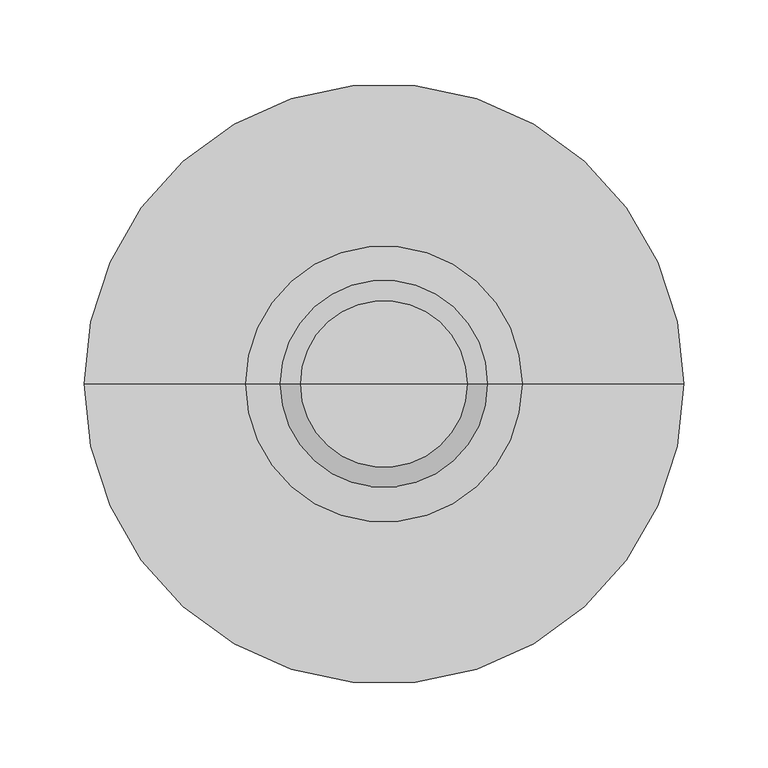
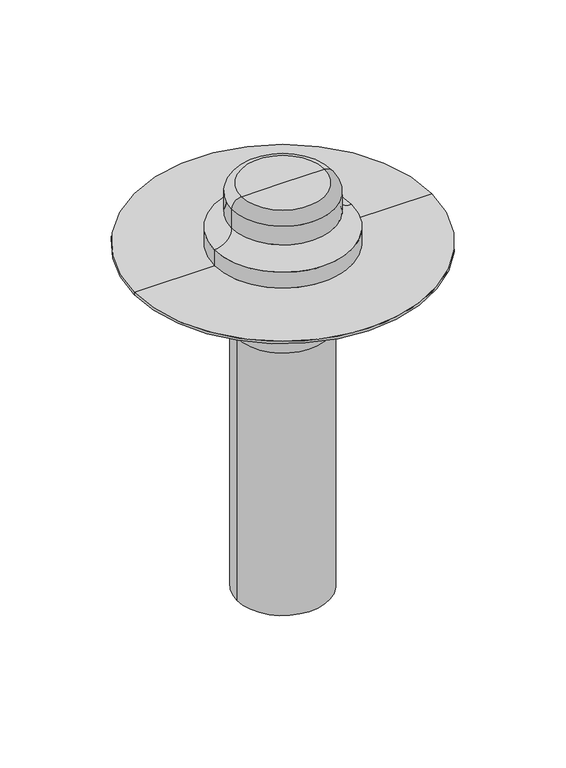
"""IFC4 building model written with IfcOpenShell, lengths in millimetres: flow terminal geometry, BIMLIB_Воронка_Кровельная_Fachmann_VM : 110х450."""

import ifcopenshell
import ifcopenshell.guid

model = None  # the IFC model being written
_history = None  # IfcOwnerHistory: only IFC2X3 demands one
_inside = {}  # id of a spatial element -> (the spatial element, [elements in it])
_under = {}  # id of a project, library or spatial element -> (it, [spatial elements below it])
_declared = {}  # id of a project -> (the project, [libraries it declares])
_typed = {}  # id of a type object -> (the type object, [elements of that type])
_made_of = {}  # id of a material, layer set ... -> (it, [elements and type objects made of it])


def new_model(schema):
    """Start an empty IFC model of exactly this schema.

    Asked for "IFC4X3", IfcOpenShell would pick the latest addendum, in which some entities
    have other attributes; the version numbers below select the first issue.
    IFC2X3 requires an IfcOwnerHistory on every rooted entity: one is made here for all.
    """
    global model, _history
    if schema == "IFC4X3":
        model = ifcopenshell.file(schema_version=(4, 3, 0, 0))
    else:
        model = ifcopenshell.file(schema=schema)
    _inside.clear()
    _under.clear()
    _declared.clear()
    _typed.clear()
    _made_of.clear()
    _history = None
    if model.schema == "IFC2X3":
        org = make("IfcOrganization", Name="unknown")
        user = make(
            "IfcPersonAndOrganization",
            ThePerson=make("IfcPerson", FamilyName="unknown"),
            TheOrganization=org,
        )
        app = make(
            "IfcApplication",
            ApplicationDeveloper=org,
            Version="unknown",
            ApplicationFullName="unknown",
            ApplicationIdentifier="unknown",
        )
        _history = make(
            "IfcOwnerHistory",
            OwningUser=user,
            OwningApplication=app,
            ChangeAction="ADDED",
            CreationDate=0,
        )
    return model


def make(cls, **values):
    """One entity of the class cls with the attributes given. An attribute that is None is left unset."""
    return model.create_entity(
        cls, **{name: value for name, value in values.items() if value is not None}
    )


def rooted(cls, **values):
    """An entity with a GlobalId (a new one), such as an element, a storey or a relation."""
    return make(cls, GlobalId=ifcopenshell.guid.new(), OwnerHistory=_history, **values)


def si_unit(unit_type, name, prefix=None):
    """IfcSIUnit, for example si_unit("LENGTHUNIT", "METRE", prefix="MILLI")."""
    return make("IfcSIUnit", UnitType=unit_type, Prefix=prefix, Name=name)


def assignment(units):
    """IfcUnitAssignment: the units of a project."""
    return None if units is None else make("IfcUnitAssignment", Units=units)


def point(xyz):
    """IfcCartesianPoint."""
    return None if xyz is None else make("IfcCartesianPoint", Coordinates=xyz)


def direction(xyz):
    """IfcDirection."""
    return None if xyz is None else make("IfcDirection", DirectionRatios=xyz)


def frame(location, z_axis=None, x_axis=None):
    """IfcAxis2Placement3D, a coordinate frame: its origin and axes. An axis left out is left unset."""
    return make(
        "IfcAxis2Placement3D",
        Location=point(location),
        Axis=direction(z_axis),
        RefDirection=direction(x_axis),
    )


def origin():
    """The frame at (0, 0, 0) with its axes left unset."""
    return frame((0.0, 0.0, 0.0))


def origin_with_axes():
    """The frame at (0, 0, 0) with the z axis (0, 0, 1) and the x axis (1, 0, 0) written out."""
    return frame((0.0, 0.0, 0.0), z_axis=(0.0, 0.0, 1.0), x_axis=(1.0, 0.0, 0.0))


def place(relative_to, where):
    """IfcLocalPlacement: puts the frame where relative to a parent placement (None: the world)."""
    return make(
        "IfcLocalPlacement", PlacementRelTo=relative_to, RelativePlacement=where
    )


def context(
    kind, dimensions, precision=None, world=None, true_north=None, identifier=None
):
    """IfcGeometricRepresentationContext, for example the 3D "Model" context."""
    return make(
        "IfcGeometricRepresentationContext",
        ContextIdentifier=identifier,
        ContextType=kind,
        CoordinateSpaceDimension=dimensions,
        Precision=precision,
        WorldCoordinateSystem=world,
        TrueNorth=true_north,
    )


def project(units=None, contexts=None):
    """IfcProject with its units and contexts."""
    return rooted(
        "IfcProject",
        Name="project",
        RepresentationContexts=contexts,
        UnitsInContext=assignment(units),
    )


def spatial(cls, under=None, at=None, **own):
    """A site, building, storey or space (cls), placed at a placement, below another one or the project."""
    s = rooted(cls, ObjectPlacement=at, **own)
    if under is not None:
        _under.setdefault(under.id(), (under, []))[1].append(s)
    return s


def polyline(points):
    """IfcPolyline through the points."""
    return make("IfcPolyline", Points=[point(p) for p in points])


def circle_curve(where, radius):
    """IfcCircle in the frame where."""
    return make("IfcCircle", Position=where, Radius=radius)


def ellipse_curve(where, semi_axis1, semi_axis2):
    """IfcEllipse in the frame where."""
    return make(
        "IfcEllipse", Position=where, SemiAxis1=semi_axis1, SemiAxis2=semi_axis2
    )


def trimmed(basis, trim1, trim2, sense, master):
    """IfcTrimmedCurve: the piece of a basis curve between two trims."""
    return make(
        "IfcTrimmedCurve",
        BasisCurve=basis,
        Trim1=trim1,
        Trim2=trim2,
        SenseAgreement=sense,
        MasterRepresentation=master,
    )


def shape(context_of_items, identifier, shape_type, items):
    """IfcShapeRepresentation: the items that make up one representation, for example the "Body"."""
    return make(
        "IfcShapeRepresentation",
        ContextOfItems=context_of_items,
        RepresentationIdentifier=identifier,
        RepresentationType=shape_type,
        Items=items,
    )


def source(mapping_origin, context_of_items, identifier, shape_type, items):
    """IfcRepresentationMap: a shape defined once, which mapped items show again and again."""
    return make(
        "IfcRepresentationMap",
        MappingOrigin=mapping_origin,
        MappedRepresentation=shape(context_of_items, identifier, shape_type, items),
    )


def transform(
    local_origin,
    x_axis=None,
    y_axis=None,
    z_axis=None,
    scale=None,
    scale2=None,
    scale3=None,
    uniform=True,
):
    """IfcCartesianTransformationOperator3D, or its non-uniform kind. x_axis, y_axis, z_axis: its Axis1, 2, 3."""
    if uniform:
        return make(
            "IfcCartesianTransformationOperator3D",
            Axis1=direction(x_axis),
            Axis2=direction(y_axis),
            LocalOrigin=point(local_origin),
            Scale=scale,
            Axis3=direction(z_axis),
        )
    return make(
        "IfcCartesianTransformationOperator3DnonUniform",
        Axis1=direction(x_axis),
        Axis2=direction(y_axis),
        LocalOrigin=point(local_origin),
        Scale=scale,
        Axis3=direction(z_axis),
        Scale2=scale2,
        Scale3=scale3,
    )


def mapped(mapping_source, mapping_target):
    """IfcMappedItem: shows the shape of a source again, moved by a transform."""
    return make(
        "IfcMappedItem", MappingSource=mapping_source, MappingTarget=mapping_target
    )


def made_of(thing, what):
    """Note that an element or type object is made of a material, layer set ...; save() writes the relation."""
    if what is not None:
        _made_of.setdefault(what.id(), (what, []))[1].append(thing)
    return thing


def element(
    cls,
    number,
    at=None,
    inside=None,
    cuts=None,
    type_object=None,
    material=None,
    context=None,
    identifier="Body",
    shape_type=None,
    held_by="IfcProductDefinitionShape",
    body=None,
    shapes=None,
    **own,
):
    """One element of the class cls, such as IfcWall. Its Tag is "e" and its number.

    at: its placement. inside: the storey or other place that contains it. cuts: it is an
    opening in that element (IfcRelVoidsElement). A single representation is given by context,
    identifier, shape_type and body (its items); several are given by shapes. held_by: the class
    of the entity that holds the representations. save() writes the other relations.
    """
    e = rooted(cls, Tag="e%d" % number, ObjectPlacement=at, **own)
    if body is not None:
        shapes = [shape(context, identifier, shape_type, body)]
    if shapes is not None:
        e.Representation = make(held_by, Representations=shapes)
    if inside is not None:
        _inside.setdefault(inside.id(), (inside, []))[1].append(e)
    if cuts is not None:
        rooted(
            "IfcRelVoidsElement", RelatingBuildingElement=cuts, RelatedOpeningElement=e
        )
    if type_object is not None:
        _typed.setdefault(type_object.id(), (type_object, []))[1].append(e)
    return made_of(e, material)


def aggregate(whole, parts):
    """IfcRelAggregates: a whole, such as a stair, and the parts it consists of."""
    return rooted("IfcRelAggregates", RelatingObject=whole, RelatedObjects=parts)


def save(model, path):
    """Write the relations noted so far, then the file.

    IfcRelAggregates (storeys below a building ...), IfcRelContainedInSpatialStructure (elements
    in a storey), IfcRelDefinesByType, IfcRelAssociatesMaterial and IfcRelDeclares: one each for
    every whole, place, type object, material and project.
    """
    for whole, parts in _under.values():
        aggregate(whole, parts)
    for where, things in _inside.values():
        rooted(
            "IfcRelContainedInSpatialStructure",
            RelatedElements=things,
            RelatingStructure=where,
        )
    for kind, things in _typed.values():
        rooted("IfcRelDefinesByType", RelatedObjects=things, RelatingType=kind)
    for what, things in _made_of.values():
        rooted("IfcRelAssociatesMaterial", RelatedObjects=things, RelatingMaterial=what)
    for by, libraries in _declared.values():
        rooted("IfcRelDeclares", RelatingContext=by, RelatedDefinitions=libraries)
    model.write(path)


def plane_surface(at):
    """IfcPlane: the flat surface through the origin of the frame at, square to its z axis."""
    return make("IfcPlane", Position=at)


def cylinder_surface(at, radius):
    """IfcCylindricalSurface: all points at the distance radius from the z axis of the frame at."""
    return make("IfcCylindricalSurface", Position=at, Radius=radius)


def revolved_surface(curve, axis_point, axis_direction):
    """IfcSurfaceOfRevolution: the curve turned about the line through axis_point along axis_direction."""
    return make(
        "IfcSurfaceOfRevolution",
        SweptCurve=make("IfcArbitraryOpenProfileDef", ProfileType="CURVE", Curve=curve),
        AxisPosition=make("IfcAxis1Placement", Location=point(axis_point), Axis=direction(axis_direction)),
    )


def advanced_brep(points, edges, surfaces, faces):
    """IfcAdvancedBrep: a solid bounded by faces that lie on surfaces and meet in shared edges.

    An edge is (start, end): straight between two places in points (the first is 0);
    or (start, end, curve); or (start, end, curve, False) where it runs against its curve.
    A face is (place in surfaces, loops), or (place, loops, False) where it looks against
    its surface's normal. A loop lists edges by number (the first is 1), with a minus sign
    where the edge is run from its end to its start. The first loop is the outer one.
    """
    corners = [point(p) for p in points]
    vertices = [make("IfcVertexPoint", VertexGeometry=c) for c in corners]
    made = []
    for start, end, *more in edges:
        made.append(
            make(
                "IfcEdgeCurve",
                EdgeStart=vertices[start],
                EdgeEnd=vertices[end],
                EdgeGeometry=more[0] if more else make("IfcPolyline", Points=[corners[start], corners[end]]),
                SameSense=more[1] if len(more) > 1 else True,
            )
        )
    hull = []
    for where, loops, *sense in faces:
        bounds = []
        for j, loop in enumerate(loops):
            ring = [make("IfcOrientedEdge", EdgeElement=made[abs(k) - 1], Orientation=k > 0) for k in loop]
            bounds.append(
                make(
                    "IfcFaceOuterBound" if j == 0 else "IfcFaceBound",
                    Bound=make("IfcEdgeLoop", EdgeList=ring),
                    Orientation=True,
                )
            )
        hull.append(make("IfcAdvancedFace", Bounds=bounds, FaceSurface=surfaces[where], SameSense=sense[0] if sense else True))
    return make("IfcAdvancedBrep", Outer=make("IfcClosedShell", CfsFaces=hull))


def flow_terminal_a2c307c8(model_context):
    return source(origin(), model_context, "Body", "AdvancedBrep", [
        advanced_brep(
        [(55.0, 0.0, -430.0), (-55.0, 0.0, -430.0), (-55.0, 0.0, -98.0), (55.0, 0.0, -98.0), (-113.0, 0.0, -9.0), (113.0, 0.0, -9.0), (113.0, 0.0, -32.0), (-113.0, 0.0, -32.0), (0.0, 0.0, 0.0), (138.0, 0.0, 0.0), (-138.0, 0.0, 0.0), (-90.0, 0.0, -32.0), (90.0, 0.0, -32.0), (90.0, 0.0, -40.0), (-90.0, 0.0, -40.0)],
        [
            (0, 1, circle_curve(frame((0.0, 0.0, -430.0), z_axis=(0.0, 0.0, -1.0), x_axis=(-1.0, 0.0, 0.0)), 55.0)),
            (1, 0, circle_curve(frame((0.0, 0.0, -430.0), z_axis=(0.0, 0.0, -1.0), x_axis=(-1.0, 0.0, 0.0)), 55.0)),
            (1, 2),
            (2, 3, circle_curve(frame((0.0, 0.0, -98.0), z_axis=(0.0, 0.0, -1.0), x_axis=(-1.0, 0.0, 0.0)), 55.0)),
            (3, 0),
            (3, 2, circle_curve(frame((0.0, 0.0, -98.0), z_axis=(0.0, 0.0, -1.0), x_axis=(-1.0, 0.0, 0.0)), 55.0)),
            (4, 5, circle_curve(frame((0.0, 0.0, -9.0), z_axis=(0.0, 0.0, -1.0), x_axis=(1.0, 0.0, 0.0)), 113.0)),
            (5, 6),
            (6, 7, circle_curve(frame((0.0, 0.0, -32.0), z_axis=(0.0, 0.0, 1.0), x_axis=(1.0, 0.0, 0.0)), 113.0)),
            (7, 4),
            (5, 4, circle_curve(frame((0.0, 0.0, -9.0), z_axis=(0.0, 0.0, -1.0), x_axis=(1.0, 0.0, 0.0)), 113.0)),
            (7, 6, circle_curve(frame((0.0, 0.0, -32.0), z_axis=(0.0, 0.0, 1.0), x_axis=(1.0, 0.0, 0.0)), 113.0)),
            (8, 9),
            (9, 10, circle_curve(origin_with_axes(), 138.0)),
            (10, 8),
            (10, 9, circle_curve(origin_with_axes(), 138.0)),
            (4, 10),
            (9, 5),
            (11, 12, circle_curve(frame((0.0, 0.0, -32.0), z_axis=(0.0, 0.0, -1.0), x_axis=(1.0, 0.0, 0.0)), 90.0)),
            (12, 13),
            (13, 14, circle_curve(frame((0.0, 0.0, -40.0), z_axis=(0.0, 0.0, 1.0), x_axis=(1.0, 0.0, 0.0)), 90.0)),
            (14, 11),
            (12, 11, circle_curve(frame((0.0, 0.0, -32.0), z_axis=(0.0, 0.0, -1.0), x_axis=(1.0, 0.0, 0.0)), 90.0)),
            (14, 13, circle_curve(frame((0.0, 0.0, -40.0), z_axis=(0.0, 0.0, 1.0), x_axis=(1.0, 0.0, 0.0)), 90.0)),
            (6, 12),
            (11, 7),
            (13, 3),
            (2, 14),
        ],
        [
            plane_surface(frame((-55.0, 0.0, -430.0), z_axis=(0.0, 0.0, -1.0), x_axis=(0.0, 1.0, 0.0))),
            cylinder_surface(frame((0.0, 0.0, -430.0), z_axis=(0.0, 0.0, 1.0), x_axis=(-1.0, 0.0, 0.0)), 55.0),
            cylinder_surface(frame((0.0, 0.0, 159.0), z_axis=(0.0, 0.0, 1.0), x_axis=(1.0, 0.0, 0.0)), 113.0),
            plane_surface(origin_with_axes()),
            revolved_surface(polyline([(113.0, 0.0, -9.0), (138.0, 0.0, 0.0)]), (0.0, 0.0, 159.0), (0.0, 0.0, 1.0)),
            cylinder_surface(frame((0.0, 0.0, 159.0), z_axis=(0.0, 0.0, 1.0), x_axis=(1.0, 0.0, 0.0)), 90.0),
            plane_surface(frame((0.0, 0.0, -32.0), z_axis=(0.0, 0.0, -1.0), x_axis=(1.0, 0.0, 0.0))),
            revolved_surface(polyline([(55.0, 0.0, -98.0), (90.0, 0.0, -40.0)]), (0.0, 0.0, 159.0), (0.0, 0.0, 1.0)),
        ],
        [
            (0, [[1, 2]]),
            (1, [[-2, 3, 4, 5]]),
            (1, [[-1, -5, 6, -3]]),
            (2, [[7, 8, 9, 10]]),
            (2, [[-8, 11, -10, 12]]),
            (3, [[13, 14, 15]]),
            (3, [[-13, -15, 16]]),
            (4, [[-7, 17, -14, 18]]),
            (4, [[-11, -18, -16, -17]]),
            (5, [[19, 20, 21, 22]]),
            (5, [[-20, 23, -22, 24]]),
            (6, [[-9, 25, -19, 26]]),
            (6, [[-12, -26, -23, -25]]),
            (7, [[-21, 27, -4, 28]]),
            (7, [[-24, -28, -6, -27]]),
        ],
    ),
        advanced_brep(
        [(0.0, 0.0, 79.0), (49.5, 0.0, 79.0), (-49.5, 0.0, 79.0), (-178.0, 0.0, 0.0), (178.0, 0.0, 0.0), (0.0, 0.0, 0.0), (-178.0, 0.0, 3.0), (178.0, 0.0, 3.0), (-82.0, 0.0, 3.0), (82.0, 0.0, 3.0), (-61.5, 0.0, 67.0), (61.5, 0.0, 67.0), (61.5, 0.0, 43.5), (-61.5, 0.0, 43.5), (-82.0, 0.0, 23.0), (82.0, 0.0, 23.0)],
        [
            (0, 1),
            (1, 2, circle_curve(frame((0.0, 0.0, 79.0), z_axis=(0.0, 0.0, 1.0), x_axis=(1.0, 0.0, 0.0)), 49.5)),
            (2, 0),
            (2, 1, circle_curve(frame((0.0, 0.0, 79.0), z_axis=(0.0, 0.0, 1.0), x_axis=(1.0, 0.0, 0.0)), 49.5)),
            (3, 4, circle_curve(frame((0.0, 0.0, 0.0), z_axis=(0.0, 0.0, -1.0), x_axis=(1.0, 0.0, 0.0)), 178.0)),
            (4, 5),
            (5, 3),
            (4, 3, circle_curve(frame((0.0, 0.0, 0.0), z_axis=(0.0, 0.0, -1.0), x_axis=(1.0, 0.0, 0.0)), 178.0)),
            (6, 7, circle_curve(frame((0.0, 0.0, 3.0), z_axis=(0.0, 0.0, -1.0), x_axis=(1.0, 0.0, 0.0)), 178.0)),
            (7, 4),
            (3, 6),
            (7, 6, circle_curve(frame((0.0, 0.0, 3.0), z_axis=(0.0, 0.0, -1.0), x_axis=(1.0, 0.0, 0.0)), 178.0)),
            (8, 9, circle_curve(frame((0.0, 0.0, 3.0), z_axis=(0.0, 0.0, -1.0), x_axis=(1.0, 0.0, 0.0)), 82.0)),
            (9, 7),
            (6, 8),
            (9, 8, circle_curve(frame((0.0, 0.0, 3.0), z_axis=(0.0, 0.0, -1.0), x_axis=(1.0, 0.0, 0.0)), 82.0)),
            (10, 11, circle_curve(frame((0.0, 0.0, 67.0), z_axis=(0.0, 0.0, -1.0), x_axis=(1.0, 0.0, 0.0)), 61.5)),
            (11, 12),
            (12, 13, circle_curve(frame((0.0, 0.0, 43.5), z_axis=(0.0, 0.0, 1.0), x_axis=(1.0, 0.0, 0.0)), 61.5)),
            (13, 10),
            (11, 10, circle_curve(frame((0.0, 0.0, 67.0), z_axis=(0.0, 0.0, -1.0), x_axis=(1.0, 0.0, 0.0)), 61.5)),
            (13, 12, circle_curve(frame((0.0, 0.0, 43.5), z_axis=(0.0, 0.0, 1.0), x_axis=(1.0, 0.0, 0.0)), 61.5)),
            (1, 11, circle_curve(frame((49.5, 0.0, 67.0), z_axis=(0.0, 1.0, 0.0), x_axis=(1.0, 0.0, 0.0)), 12.0)),
            (10, 2, circle_curve(frame((-49.5, 0.0, 67.0), z_axis=(0.0, 1.0, 0.0), x_axis=(-1.0, 0.0, 0.0)), 12.0)),
            (14, 15, circle_curve(frame((0.0, 0.0, 23.0), z_axis=(0.0, 0.0, -1.0), x_axis=(1.0, 0.0, 0.0)), 82.0)),
            (15, 9),
            (8, 14),
            (15, 14, circle_curve(frame((0.0, 0.0, 23.0), z_axis=(0.0, 0.0, -1.0), x_axis=(1.0, 0.0, 0.0)), 82.0)),
            (12, 15, circle_curve(frame((82.0, 0.0, 43.5), z_axis=(0.0, -1.0, 0.0), x_axis=(1.0, 0.0, 0.0)), 20.5)),
            (14, 13, circle_curve(frame((-82.0, 0.0, 43.5), z_axis=(0.0, -1.0, 0.0), x_axis=(-1.0, 0.0, 0.0)), 20.5)),
        ],
        [
            plane_surface(frame((0.0, 0.0, 79.0), z_axis=(0.0, 0.0, 1.0), x_axis=(1.0, 0.0, 0.0))),
            plane_surface(frame((0.0, 0.0, 0.0), z_axis=(0.0, 0.0, -1.0), x_axis=(1.0, 0.0, 0.0))),
            cylinder_surface(frame((0.0, 0.0, 229.0), z_axis=(0.0, 0.0, 1.0), x_axis=(1.0, 0.0, 0.0)), 178.0),
            plane_surface(frame((0.0, 0.0, 3.0), z_axis=(0.0, 0.0, 1.0), x_axis=(1.0, 0.0, 0.0))),
            cylinder_surface(frame((0.0, 0.0, 229.0), z_axis=(0.0, 0.0, 1.0), x_axis=(1.0, 0.0, 0.0)), 61.5),
            revolved_surface(trimmed(ellipse_curve(frame((49.5, 0.0, 67.0), z_axis=(0.0, -1.0, 0.0), x_axis=(1.0, 0.0, 0.0)), 12.0, 12.0), [point((61.5, 0.0, 67.0))], [point((49.5, 0.0, 79.0))], True, "CARTESIAN"), (0.0, 0.0, 229.0), (0.0, 0.0, 1.0)),
            cylinder_surface(frame((0.0, 0.0, 229.0), z_axis=(0.0, 0.0, 1.0), x_axis=(1.0, 0.0, 0.0)), 82.0),
            revolved_surface(trimmed(ellipse_curve(frame((82.0, 0.0, 43.5), z_axis=(0.0, 1.0, 0.0), x_axis=(1.0, 0.0, 0.0)), 20.5, 20.5), [point((82.0, 0.0, 23.0))], [point((61.5, 0.0, 43.5))], True, "CARTESIAN"), (0.0, 0.0, 229.0), (0.0, 0.0, 1.0)),
        ],
        [
            (0, [[1, 2, 3]]),
            (0, [[-3, 4, -1]]),
            (1, [[5, 6, 7]]),
            (1, [[8, -7, -6]]),
            (2, [[9, 10, -5, 11]]),
            (2, [[12, -11, -8, -10]]),
            (3, [[13, 14, -9, 15]]),
            (3, [[16, -15, -12, -14]]),
            (4, [[17, 18, 19, 20]]),
            (4, [[21, -20, 22, -18]]),
            (5, [[-2, 23, -17, 24]]),
            (5, [[-4, -24, -21, -23]]),
            (6, [[25, 26, -13, 27]]),
            (6, [[28, -27, -16, -26]]),
            (7, [[-19, 29, -25, 30]]),
            (7, [[-22, -30, -28, -29]]),
        ],
    ),
    ])


if __name__ == "__main__":
    model = new_model("IFC4")
    model_context = context("Model", 3, world=origin())
    ifc_project = project(units=[si_unit("LENGTHUNIT", "METRE", prefix="MILLI")], contexts=[model_context])
    site = spatial("IfcSite", under=ifc_project)
    building = spatial("IfcBuilding", under=site)
    placement = place(None, origin())
    flow_terminal_shape = flow_terminal_a2c307c8(model_context)
    element("IfcFlowTerminal", 1, ObjectType="BIMLIB_Воронка_Кровельная_Fachmann_VM : 110х450", at=placement, inside=building, context=model_context, shape_type="MappedRepresentation", body=[
        mapped(flow_terminal_shape, transform((0.0, 0.0, 0.0), x_axis=(1.0, 0.0, 0.0), y_axis=(0.0, 1.0, 0.0), z_axis=(0.0, 0.0, 1.0))),
    ])
    save(model, "model.ifc")
